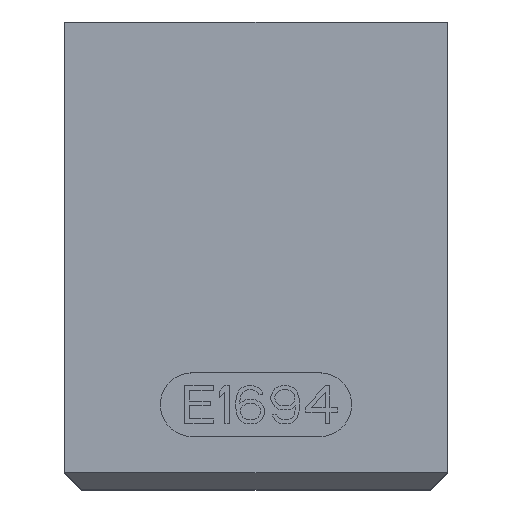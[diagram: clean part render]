
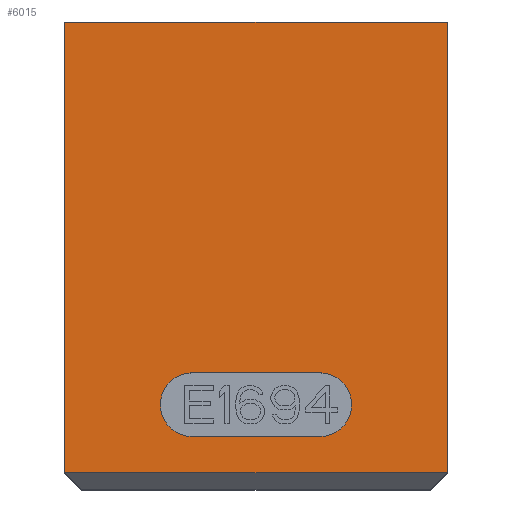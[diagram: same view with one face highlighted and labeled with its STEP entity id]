
A CAD part, top view. The second image highlights one B-rep face of the part: STEP entity #6015.
In plain terms, the highlighted planar face has unit normal (0, 0, 1).
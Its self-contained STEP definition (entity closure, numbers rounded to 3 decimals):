
#1 = CARTESIAN_POINT ( 'NONE',  ( 3., 4., 4. ) ) ;
#42 = DIRECTION ( 'NONE',  ( 1., 0., 0. ) ) ;
#254 = EDGE_CURVE ( 'NONE', #4532, #8401, #7508, .T. ) ;
#417 = VERTEX_POINT ( 'NONE', #3696 ) ;
#509 = VERTEX_POINT ( 'NONE', #2522 ) ;
#612 = CARTESIAN_POINT ( 'NONE',  ( -9., 0., 4. ) ) ;
#734 = CARTESIAN_POINT ( 'NONE',  ( 3., 2.5, 4. ) ) ;
#771 = DIRECTION ( 'NONE',  ( 1., 0., 0. ) ) ;
#986 = VERTEX_POINT ( 'NONE', #5594 ) ;
#1145 = ORIENTED_EDGE ( 'NONE', *, *, #4748, .F. ) ;
#1173 = VERTEX_POINT ( 'NONE', #6671 ) ;
#1585 = ORIENTED_EDGE ( 'NONE', *, *, #8655, .T. ) ;
#1664 = CARTESIAN_POINT ( 'NONE',  ( -9., 0., 4. ) ) ;
#1697 = DIRECTION ( 'NONE',  ( 1., 0., 0. ) ) ;
#1712 = AXIS2_PLACEMENT_3D ( 'NONE', #3590, #8409, #4365 ) ;
#1904 = CARTESIAN_POINT ( 'NONE',  ( -9., 22., 4. ) ) ;
#1927 = CARTESIAN_POINT ( 'NONE',  ( -9., 0.8, 4. ) ) ;
#1960 = DIRECTION ( 'NONE',  ( 1., 0., 0. ) ) ;
#1967 = CARTESIAN_POINT ( 'NONE',  ( -3., 2.5, 4. ) ) ;
#2070 = LINE ( 'NONE', #9175, #2077 ) ;
#2077 = VECTOR ( 'NONE', #8071, 1000. ) ;
#2156 = LINE ( 'NONE', #3639, #2848 ) ;
#2262 = LINE ( 'NONE', #1927, #7695 ) ;
#2522 = CARTESIAN_POINT ( 'NONE',  ( 9., 0.8, 4. ) ) ;
#2706 = CARTESIAN_POINT ( 'NONE',  ( 9., 22., 4. ) ) ;
#2848 = VECTOR ( 'NONE', #5826, 1000. ) ;
#2972 = CARTESIAN_POINT ( 'NONE',  ( -3., 5.5, 4. ) ) ;
#2981 = EDGE_CURVE ( 'NONE', #8102, #3143, #7057, .T. ) ;
#3143 = VERTEX_POINT ( 'NONE', #1967 ) ;
#3242 = ORIENTED_EDGE ( 'NONE', *, *, #5129, .T. ) ;
#3391 = EDGE_CURVE ( 'NONE', #1173, #509, #2262, .T. ) ;
#3466 = CIRCLE ( 'NONE', #7317, 1.5 ) ;
#3590 = CARTESIAN_POINT ( 'NONE',  ( 3., 4., 4. ) ) ;
#3639 = CARTESIAN_POINT ( 'NONE',  ( -9., 5.5, 4. ) ) ;
#3681 = EDGE_CURVE ( 'NONE', #1173, #4532, #5614, .T. ) ;
#3696 = CARTESIAN_POINT ( 'NONE',  ( 4.5, 4., 4. ) ) ;
#3799 = VERTEX_POINT ( 'NONE', #2972 ) ;
#3801 = DIRECTION ( 'NONE',  ( -1., 0., 0. ) ) ;
#3844 = CIRCLE ( 'NONE', #8605, 1.5 ) ;
#4065 = ORIENTED_EDGE ( 'NONE', *, *, #2981, .T. ) ;
#4365 = DIRECTION ( 'NONE',  ( 1., 0., 0. ) ) ;
#4428 = DIRECTION ( 'NONE',  ( 1., 0., 0. ) ) ;
#4532 = VERTEX_POINT ( 'NONE', #1904 ) ;
#4563 = DIRECTION ( 'NONE',  ( 0., 0., -1. ) ) ;
#4647 = CARTESIAN_POINT ( 'NONE',  ( 0., 22., 4. ) ) ;
#4748 = EDGE_CURVE ( 'NONE', #8401, #509, #2070, .T. ) ;
#4815 = ORIENTED_EDGE ( 'NONE', *, *, #254, .F. ) ;
#5089 = DIRECTION ( 'NONE',  ( 0., 1., 0. ) ) ;
#5129 = EDGE_CURVE ( 'NONE', #417, #8102, #5149, .T. ) ;
#5149 = CIRCLE ( 'NONE', #1712, 1.5 ) ;
#5250 = DIRECTION ( 'NONE',  ( 0., 0., -1. ) ) ;
#5410 = PLANE ( 'NONE',  #8505 ) ;
#5594 = CARTESIAN_POINT ( 'NONE',  ( 3., 5.5, 4. ) ) ;
#5614 = LINE ( 'NONE', #612, #6112 ) ;
#5658 = EDGE_LOOP ( 'NONE', ( #4065, #1585, #8996, #6585, #3242 ) ) ;
#5731 = EDGE_LOOP ( 'NONE', ( #8720, #8438, #1145, #4815 ) ) ;
#5826 = DIRECTION ( 'NONE',  ( 1., 0., 0. ) ) ;
#6015 = ADVANCED_FACE ( 'NONE', ( #7180, #7161 ), #5410, .T. ) ;
#6112 = VECTOR ( 'NONE', #5089, 1000. ) ;
#6119 = DIRECTION ( 'NONE',  ( 0., 0., 1. ) ) ;
#6585 = ORIENTED_EDGE ( 'NONE', *, *, #8625, .T. ) ;
#6671 = CARTESIAN_POINT ( 'NONE',  ( -9., 0.8, 4. ) ) ;
#7057 = LINE ( 'NONE', #9054, #7144 ) ;
#7144 = VECTOR ( 'NONE', #3801, 1000. ) ;
#7161 = FACE_OUTER_BOUND ( 'NONE', #5731, .T. ) ;
#7180 = FACE_BOUND ( 'NONE', #5658, .T. ) ;
#7317 = AXIS2_PLACEMENT_3D ( 'NONE', #1, #5250, #771 ) ;
#7508 = LINE ( 'NONE', #4647, #8570 ) ;
#7695 = VECTOR ( 'NONE', #1960, 1000. ) ;
#8071 = DIRECTION ( 'NONE',  ( 0., -1., 0. ) ) ;
#8102 = VERTEX_POINT ( 'NONE', #734 ) ;
#8401 = VERTEX_POINT ( 'NONE', #2706 ) ;
#8409 = DIRECTION ( 'NONE',  ( 0., 0., -1. ) ) ;
#8438 = ORIENTED_EDGE ( 'NONE', *, *, #3391, .T. ) ;
#8505 = AXIS2_PLACEMENT_3D ( 'NONE', #1664, #6119, #1697 ) ;
#8529 = EDGE_CURVE ( 'NONE', #3799, #986, #2156, .T. ) ;
#8570 = VECTOR ( 'NONE', #4428, 1000. ) ;
#8586 = CARTESIAN_POINT ( 'NONE',  ( -3., 4., 4. ) ) ;
#8605 = AXIS2_PLACEMENT_3D ( 'NONE', #8586, #4563, #42 ) ;
#8625 = EDGE_CURVE ( 'NONE', #986, #417, #3466, .T. ) ;
#8655 = EDGE_CURVE ( 'NONE', #3143, #3799, #3844, .T. ) ;
#8720 = ORIENTED_EDGE ( 'NONE', *, *, #3681, .F. ) ;
#8996 = ORIENTED_EDGE ( 'NONE', *, *, #8529, .T. ) ;
#9054 = CARTESIAN_POINT ( 'NONE',  ( -9., 2.5, 4. ) ) ;
#9175 = CARTESIAN_POINT ( 'NONE',  ( 9., 0., 4. ) ) ;
